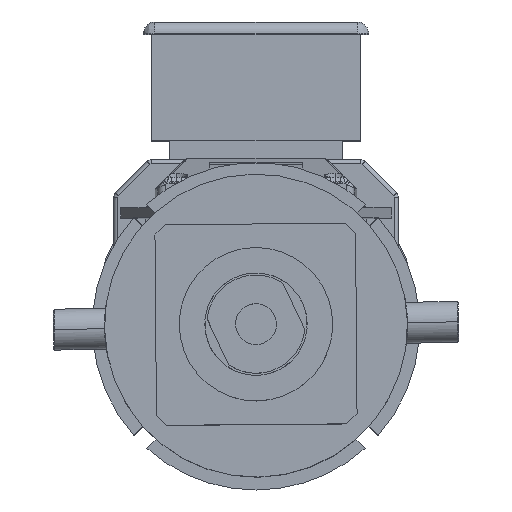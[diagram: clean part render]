
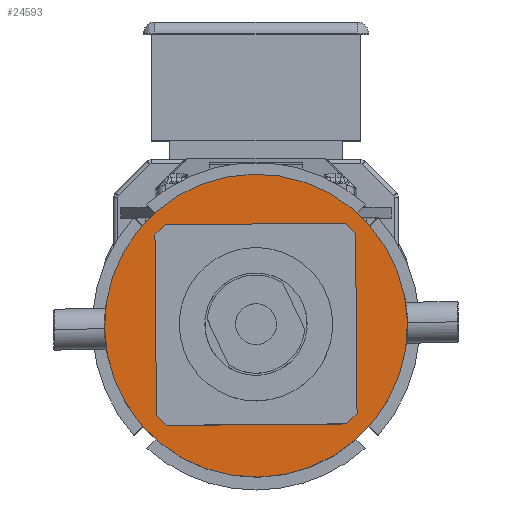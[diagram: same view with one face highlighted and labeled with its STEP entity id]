
A CAD part, top view. The second image highlights one B-rep face of the part: STEP entity #24593.
In plain terms, the highlighted planar face has unit normal (0, 0, 1) as drawn and (0, 0, -1) by its records, which use the part's own axes.
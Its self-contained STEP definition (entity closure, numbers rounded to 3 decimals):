
#3155 = CARTESIAN_POINT ( 'NONE',  ( 0., 0., 0. ) ) ;
#5444 = CARTESIAN_POINT ( 'NONE',  ( 0., 0., 0. ) ) ;
#6240 = CARTESIAN_POINT ( 'NONE',  ( 40., 0., 0. ) ) ;
#8475 = AXIS2_PLACEMENT_3D ( 'NONE', #5444, #50925, #11973 ) ;
#9677 = DIRECTION ( 'NONE',  ( 1., 0., 0. ) ) ;
#11973 = DIRECTION ( 'NONE',  ( 1., 0., 0. ) ) ;
#15653 = DIRECTION ( 'NONE',  ( 0., 0., 1. ) ) ;
#16421 = VERTEX_POINT ( 'NONE', #20871 ) ;
#20871 = CARTESIAN_POINT ( 'NONE',  ( -40., 0., 0. ) ) ;
#21218 = EDGE_CURVE ( 'NONE', #43058, #61735, #25299, .T. ) ;
#21619 = CARTESIAN_POINT ( 'NONE',  ( -74., 0., 0. ) ) ;
#24593 = ADVANCED_FACE ( 'NONE', ( #73311, #56064 ), #37499, .F. ) ;
#24714 = DIRECTION ( 'NONE',  ( 0., 0., 1. ) ) ;
#25299 = CIRCLE ( 'NONE', #63046, 74. ) ;
#27476 = ORIENTED_EDGE ( 'NONE', *, *, #66669, .F. ) ;
#30204 = ORIENTED_EDGE ( 'NONE', *, *, #30243, .F. ) ;
#30243 = EDGE_CURVE ( 'NONE', #82075, #16421, #50704, .T. ) ;
#33066 = EDGE_CURVE ( 'NONE', #16421, #82075, #65768, .T. ) ;
#36321 = DIRECTION ( 'NONE',  ( 0., 0., -1. ) ) ;
#37499 = PLANE ( 'NONE',  #73255 ) ;
#43058 = VERTEX_POINT ( 'NONE', #21619 ) ;
#43897 = EDGE_LOOP ( 'NONE', ( #74975, #27476 ) ) ;
#48616 = DIRECTION ( 'NONE',  ( 0., 0., -1. ) ) ;
#50704 = CIRCLE ( 'NONE', #54765, 40. ) ;
#50925 = DIRECTION ( 'NONE',  ( 0., 0., 1. ) ) ;
#54596 = CARTESIAN_POINT ( 'NONE',  ( 0., 0., 0. ) ) ;
#54765 = AXIS2_PLACEMENT_3D ( 'NONE', #3155, #48616, #9677 ) ;
#55488 = AXIS2_PLACEMENT_3D ( 'NONE', #75207, #36321, #81653 ) ;
#56064 = FACE_BOUND ( 'NONE', #69327, .T. ) ;
#61124 = DIRECTION ( 'NONE',  ( 1., 0., 0. ) ) ;
#61375 = ORIENTED_EDGE ( 'NONE', *, *, #33066, .F. ) ;
#61735 = VERTEX_POINT ( 'NONE', #75944 ) ;
#63046 = AXIS2_PLACEMENT_3D ( 'NONE', #54596, #15653, #61124 ) ;
#63637 = CARTESIAN_POINT ( 'NONE',  ( 0., 0., 0. ) ) ;
#65768 = CIRCLE ( 'NONE', #55488, 40. ) ;
#66669 = EDGE_CURVE ( 'NONE', #61735, #43058, #78930, .T. ) ;
#69327 = EDGE_LOOP ( 'NONE', ( #30204, #61375 ) ) ;
#70171 = DIRECTION ( 'NONE',  ( 1., 0., 0. ) ) ;
#73255 = AXIS2_PLACEMENT_3D ( 'NONE', #63637, #24714, #70171 ) ;
#73311 = FACE_OUTER_BOUND ( 'NONE', #43897, .T. ) ;
#74975 = ORIENTED_EDGE ( 'NONE', *, *, #21218, .F. ) ;
#75207 = CARTESIAN_POINT ( 'NONE',  ( 0., 0., 0. ) ) ;
#75944 = CARTESIAN_POINT ( 'NONE',  ( 74., 0., 0. ) ) ;
#78930 = CIRCLE ( 'NONE', #8475, 74. ) ;
#81653 = DIRECTION ( 'NONE',  ( 1., 0., 0. ) ) ;
#82075 = VERTEX_POINT ( 'NONE', #6240 ) ;
